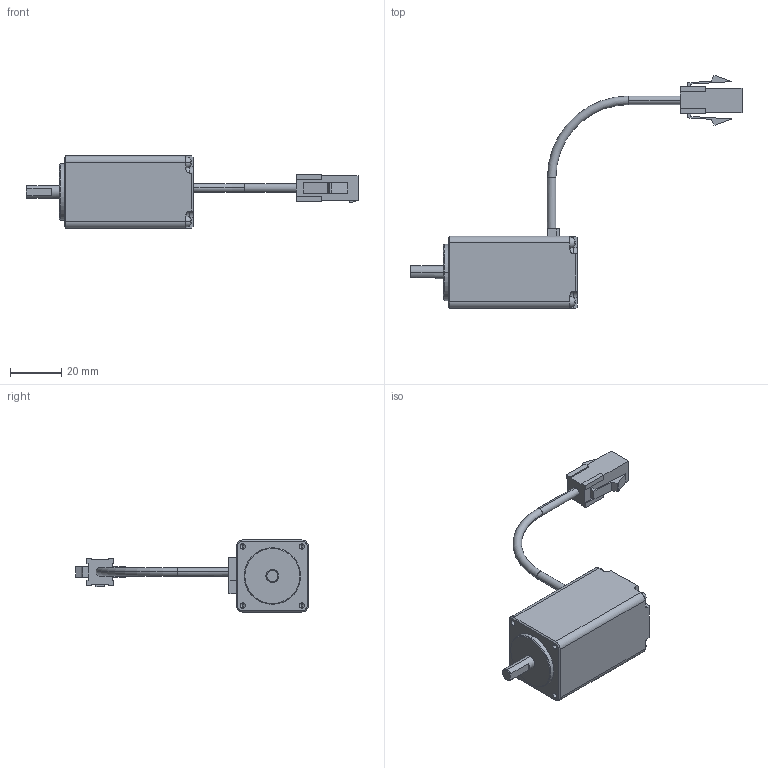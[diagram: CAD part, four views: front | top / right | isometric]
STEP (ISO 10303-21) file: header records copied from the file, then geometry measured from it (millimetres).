
FILE_DESCRIPTION (( 'STEP AP203' ), '1' );
FILE_NAME ('P21-MO-028-03-R01.STEP', '2015-06-30T01:49:17', ( '' ), ( '' ), 'SwSTEP 2.0', 'SolidWorks 2013', '' );
FILE_SCHEMA (( 'CONFIG_CONTROL_DESIGN' ));
Length unit declared in the file: millimetre
Products named in the file (3): P21-MO-028-03-R01; M21-MO-028-03-R01; Power_Cable_ル遽
Assembly tree (2 placements, depth 2):
  P21-MO-028-03-R01
    M21-MO-028-03-R01
    Power_Cable_ル遽
Bounding box: 129.07 x 90.51 x 28 mm (x, y, z)
Volume: 42203.9 mm3; surface area: 11085.9 mm2
Topology: 2 solids, 2 shells, 255 faces, 681 edges, 436 vertices
Faces by surface type: plane 168, cylinder 56, cone 17, sphere 8, torus 6
Entity records: 8159 total; most frequent: CARTESIAN_POINT 1495, DIRECTION 1348, ORIENTED_EDGE 1314, EDGE_CURVE 657, VECTOR 450, LINE 450, AXIS2_PLACEMENT_3D 449, VERTEX_POINT 428
